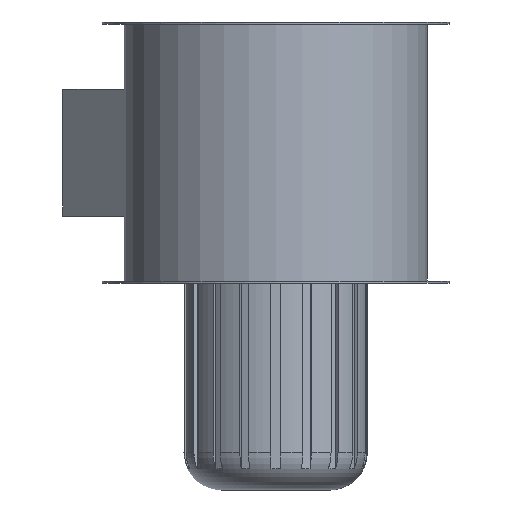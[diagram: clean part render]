
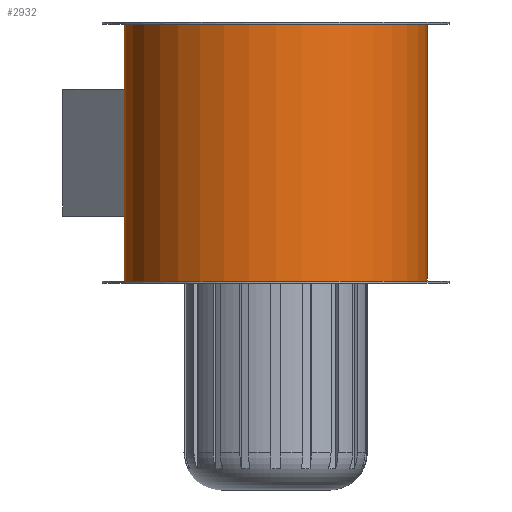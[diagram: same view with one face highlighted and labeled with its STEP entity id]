
A CAD part, front view. The second image highlights one B-rep face of the part: STEP entity #2932.
In plain terms, the highlighted cylindrical face has radius 203 mm (diameter 406 mm), a full revolution.
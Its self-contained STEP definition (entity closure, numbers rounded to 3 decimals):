
#234=FACE_BOUND('',#637,.T.);
#235=FACE_BOUND('',#638,.T.);
#386=CYLINDRICAL_SURFACE('',#3154,203.);
#443=FACE_OUTER_BOUND('',#636,.T.);
#636=EDGE_LOOP('',(#2047));
#637=EDGE_LOOP('',(#2048,#2049,#2050,#2051));
#638=EDGE_LOOP('',(#2052));
#832=CIRCLE('',#3070,203.);
#833=CIRCLE('',#3075,203.);
#884=CIRCLE('',#3155,203.);
#885=CIRCLE('',#3156,203.);
#971=LINE('',#4192,#1101);
#972=LINE('',#4195,#1102);
#1101=VECTOR('',#3410,10.);
#1102=VECTOR('',#3413,10.);
#1224=VERTEX_POINT('',#4175);
#1227=VERTEX_POINT('',#4180);
#1230=VERTEX_POINT('',#4190);
#1231=VERTEX_POINT('',#4194);
#1291=VERTEX_POINT('',#4550);
#1292=VERTEX_POINT('',#4552);
#1538=EDGE_CURVE('',#1224,#1227,#832,.T.);
#1543=EDGE_CURVE('',#1227,#1230,#971,.T.);
#1544=EDGE_CURVE('',#1231,#1224,#972,.T.);
#1546=EDGE_CURVE('',#1230,#1231,#833,.T.);
#1606=EDGE_CURVE('',#1291,#1291,#884,.F.);
#1607=EDGE_CURVE('',#1292,#1292,#885,.T.);
#2047=ORIENTED_EDGE('',*,*,#1606,.T.);
#2048=ORIENTED_EDGE('',*,*,#1538,.T.);
#2049=ORIENTED_EDGE('',*,*,#1543,.T.);
#2050=ORIENTED_EDGE('',*,*,#1546,.T.);
#2051=ORIENTED_EDGE('',*,*,#1544,.T.);
#2052=ORIENTED_EDGE('',*,*,#1607,.T.);
#2932=ADVANCED_FACE('',(#443,#234,#235),#386,.T.);
#3070=AXIS2_PLACEMENT_3D('',#4182,#3400,#3401);
#3075=AXIS2_PLACEMENT_3D('',#4198,#3417,#3418);
#3154=AXIS2_PLACEMENT_3D('',#4549,#3575,#3576);
#3155=AXIS2_PLACEMENT_3D('',#4551,#3577,#3578);
#3156=AXIS2_PLACEMENT_3D('',#4553,#3579,#3580);
#3400=DIRECTION('center_axis',(0.,0.,-1.));
#3401=DIRECTION('ref_axis',(-1.,0.,0.));
#3410=DIRECTION('',(0.,0.,1.));
#3413=DIRECTION('',(0.,0.,-1.));
#3417=DIRECTION('center_axis',(0.,0.,1.));
#3418=DIRECTION('ref_axis',(-1.,0.,0.));
#3575=DIRECTION('center_axis',(0.,0.,1.));
#3576=DIRECTION('ref_axis',(-1.,0.,0.));
#3577=DIRECTION('center_axis',(0.,0.,-1.));
#3578=DIRECTION('ref_axis',(-1.,0.,0.));
#3579=DIRECTION('center_axis',(0.,0.,-1.));
#3580=DIRECTION('ref_axis',(-1.,0.,0.));
#4175=CARTESIAN_POINT('',(-190.457,70.249,-85.));
#4180=CARTESIAN_POINT('',(-70.249,190.457,-85.));
#4182=CARTESIAN_POINT('Origin',(0.,0.,-85.));
#4190=CARTESIAN_POINT('',(-70.249,190.457,85.));
#4192=CARTESIAN_POINT('',(-70.249,190.457,0.));
#4194=CARTESIAN_POINT('',(-190.457,70.249,85.));
#4195=CARTESIAN_POINT('',(-190.457,70.249,0.));
#4198=CARTESIAN_POINT('Origin',(0.,0.,85.));
#4549=CARTESIAN_POINT('Origin',(0.,0.,0.));
#4550=CARTESIAN_POINT('',(203.,0.,-172.));
#4551=CARTESIAN_POINT('Origin',(0.,0.,-172.));
#4552=CARTESIAN_POINT('',(203.,0.,172.));
#4553=CARTESIAN_POINT('Origin',(0.,0.,172.));
